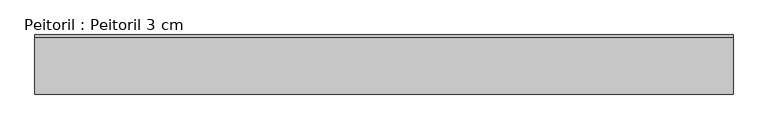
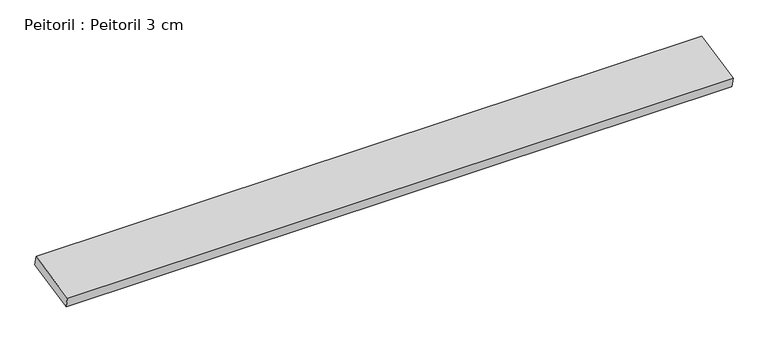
"""IFC4 building model written with IfcOpenShell, lengths in millimetres: proxy geometry, Peitoril : Peitoril 3 cm."""

from ifc_helpers import new_model, si_unit, frame, origin, place, context, project, spatial, polyline, outline, extrude, source, transform, mapped, element, save


def peitoril_peitoril_3_cm_ceeb61d0(model_context):
    return source(origin(), model_context, "Body", "SweptSolid", [
        extrude(outline(polyline([(0.0, 158.0245115), (1900.0, 158.0245115), (1900.0, 0.0), (0.0, 0.0), (0.0, 158.0245115)])), frame((1111.81445, 32.3195188, 880.655572), z_axis=(0.0, -0.20791169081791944, 0.9781476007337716), x_axis=(-1.0, 0.0, 0.0)), (0.0, 0.0, 1.0), 30.0),
    ])


if __name__ == "__main__":
    model = new_model("IFC4")
    model_context = context("Model", 3, world=origin())
    ifc_project = project(units=[si_unit("LENGTHUNIT", "METRE", prefix="MILLI")], contexts=[model_context])
    site = spatial("IfcSite", under=ifc_project)
    building = spatial("IfcBuilding", under=site)
    placement = place(None, origin())
    peitoril_peitoril_3_cm_shape = peitoril_peitoril_3_cm_ceeb61d0(model_context)
    element("IfcBuildingElementProxy", 1, Name="Peitoril : Peitoril 3 cm", ObjectType="Peitoril : Peitoril 3 cm", at=placement, inside=building, context=model_context, shape_type="MappedRepresentation", body=[
        mapped(peitoril_peitoril_3_cm_shape, transform((0.0, 0.0, 0.0), x_axis=(1.0, 0.0, 0.0), y_axis=(0.0, 1.0, 0.0), z_axis=(0.0, 0.0, 1.0))),
    ])
    save(model, "model.ifc")
